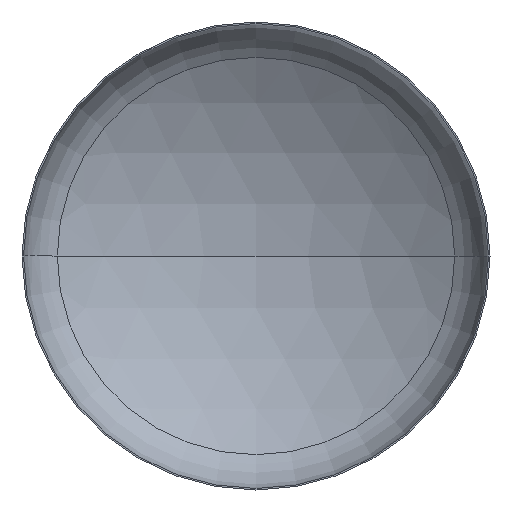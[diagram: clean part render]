
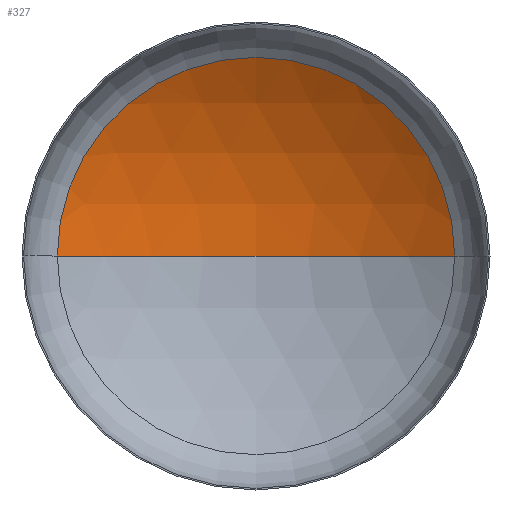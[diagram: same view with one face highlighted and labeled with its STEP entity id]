
A CAD part, front view. The second image highlights one B-rep face of the part: STEP entity #327.
In plain terms, the highlighted spherical face has radius 5200 mm.
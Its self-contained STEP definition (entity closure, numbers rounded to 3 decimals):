
#3 = VERTEX_POINT ( 'NONE', #274 ) ;
#7 = DIRECTION ( 'NONE',  ( 0., 0., -1. ) ) ;
#11 = CARTESIAN_POINT ( 'NONE',  ( 0., -3489.713, 0. ) ) ;
#15 = CARTESIAN_POINT ( 'NONE',  ( 0., -3489.713, 0. ) ) ;
#22 = AXIS2_PLACEMENT_3D ( 'NONE', #400, #169, #222 ) ;
#29 = VERTEX_POINT ( 'NONE', #257 ) ;
#32 = VERTEX_POINT ( 'NONE', #255 ) ;
#57 = AXIS2_PLACEMENT_3D ( 'NONE', #15, #108, #304 ) ;
#63 = AXIS2_PLACEMENT_3D ( 'NONE', #11, #7, #285 ) ;
#64 = AXIS2_PLACEMENT_3D ( 'NONE', #378, #112, #373 ) ;
#73 = ORIENTED_EDGE ( 'NONE', *, *, #146, .T. ) ;
#89 = ORIENTED_EDGE ( 'NONE', *, *, #147, .T. ) ;
#105 = EDGE_LOOP ( 'NONE', ( #127, #89, #73 ) ) ;
#108 = DIRECTION ( 'NONE',  ( 0., 0., 1. ) ) ;
#112 = DIRECTION ( 'NONE',  ( 0., -1., 0. ) ) ;
#127 = ORIENTED_EDGE ( 'NONE', *, *, #150, .F. ) ;
#146 = EDGE_CURVE ( 'NONE', #29, #3, #313, .T. ) ;
#147 = EDGE_CURVE ( 'NONE', #32, #29, #254, .T. ) ;
#150 = EDGE_CURVE ( 'NONE', #32, #3, #192, .T. ) ;
#169 = DIRECTION ( 'NONE',  ( 0., 0., -1. ) ) ;
#170 = SPHERICAL_SURFACE ( 'NONE', #22, 5200. ) ;
#192 = CIRCLE ( 'NONE', #57, 5200. ) ;
#222 = DIRECTION ( 'NONE',  ( -1., 0., 0. ) ) ;
#233 = FACE_OUTER_BOUND ( 'NONE', #105, .T. ) ;
#254 = CIRCLE ( 'NONE', #63, 5200. ) ;
#255 = CARTESIAN_POINT ( 'NONE',  ( 0., 1710.287, 0. ) ) ;
#257 = CARTESIAN_POINT ( 'NONE',  ( 2759.714, 917.551, 0. ) ) ;
#274 = CARTESIAN_POINT ( 'NONE',  ( -2759.714, 917.551, 0. ) ) ;
#285 = DIRECTION ( 'NONE',  ( -1., 0., 0. ) ) ;
#304 = DIRECTION ( 'NONE',  ( 1., 0., 0. ) ) ;
#313 = CIRCLE ( 'NONE', #64, 2759.714 ) ;
#327 = ADVANCED_FACE ( 'NONE', ( #233 ), #170, .F. ) ;
#373 = DIRECTION ( 'NONE',  ( 1., 0., 0. ) ) ;
#378 = CARTESIAN_POINT ( 'NONE',  ( 0., 917.551, 0. ) ) ;
#400 = CARTESIAN_POINT ( 'NONE',  ( 0., -3489.713, 0. ) ) ;
